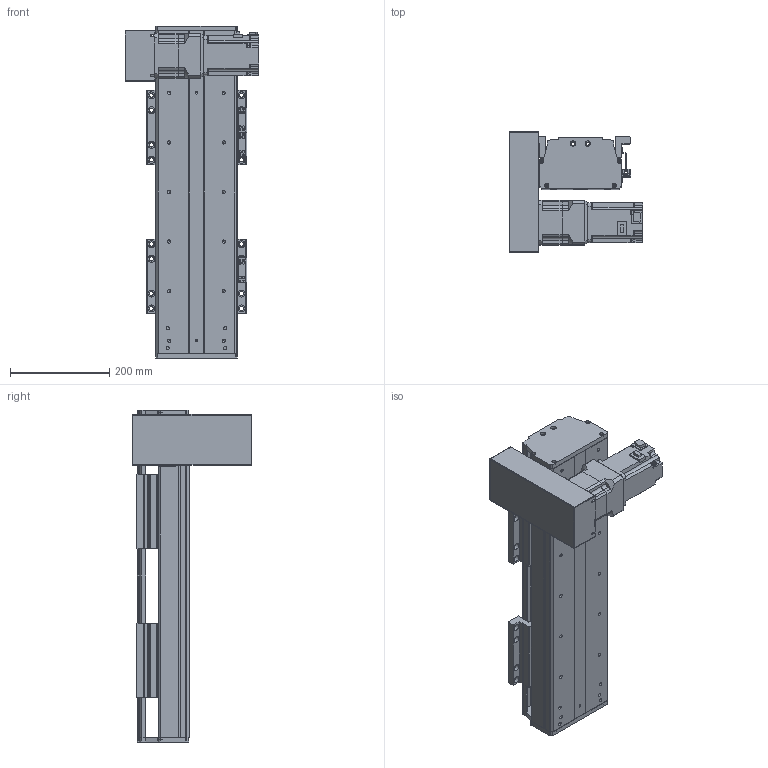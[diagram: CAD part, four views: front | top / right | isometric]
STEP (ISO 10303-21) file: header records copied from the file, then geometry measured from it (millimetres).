
FILE_DESCRIPTION(/* description */ (''),/* implementation_level */ '2;1');
FILE_NAME(/* name */ 'C:\Users\PC\Desktop\3D도면\STEP\DSB165-DL7G-W0300-R.stp',/* time_stamp */ '2018-06-25T15:43:58+09:00',/* author */ ('PC'),/* organization */ (''),/* preprocessor_version */ 'ST-DEVELOPER v16.5',/* originating_system */ 'Autodesk Inventor 2017',/* authorisation */ '');
FILE_SCHEMA (('AUTOMOTIVE_DESIGN { 1 0 10303 214 3 1 1 }'));
Length unit declared in the file: millimetre
Products named in the file (12): DSB165-L; DSR165-BASE_S; hg-kr73_; ab0901-p0401300102; 11-DBS165 BELT COVER; DBS165-COVER; DBS165-COVER_1; DBS165-UP COVER; DBS165-TABLE(MSA20S); DSR126-SENSOR DOG; SENSOR BRACKET(EE-SX674A); pm-y65_step
Assembly tree (16 placements, depth 2):
  DSB165-L
    DSR165-BASE_S
    hg-kr73_
    ab0901-p0401300102
    11-DBS165 BELT COVER
    DBS165-COVER
    DBS165-COVER_1
    DBS165-UP COVER
    DBS165-TABLE(MSA20S)  x2
    DSR126-SENSOR DOG
    pm-y65_step  x3
    SENSOR BRACKET(EE-SX674A)  x3
Bounding box: 270 x 242 x 670 mm (x, y, z)
Volume: 5670122.3 mm3; surface area: 1292822.9 mm2
Topology: 17 solids, 22 shells, 1631 faces, 4387 edges, 2900 vertices
Faces by surface type: plane 926, cylinder 601, cone 92, sphere 8, torus 4
Full cylindrical faces by diameter (mm): 2.459 x20, 3.5 x6, 4.134 x34, 4.5 x18, 5 x27, 5.5 x36, 5.9 x4, 6 x8, 6.6 x14, 6.647 x28, 6.8 x1, 7 x4, 7.6 x4, 8 x1, 8.4 x1, 8.5 x24, 8.7 x1, 9.5 x32, 11 x6, 14 x16, 19 x1, 22 x1, 24 x1, 25 x1, 28 x1, 67 x1, 70 x2, 80 x1
Entity records: 34749 total; most frequent: DIRECTION 6124, CARTESIAN_POINT 5971, ORIENTED_EDGE 5462, EDGE_CURVE 2736, AXIS2_PLACEMENT_3D 2232, VERTEX_POINT 1941, LINE 1660, VECTOR 1660
